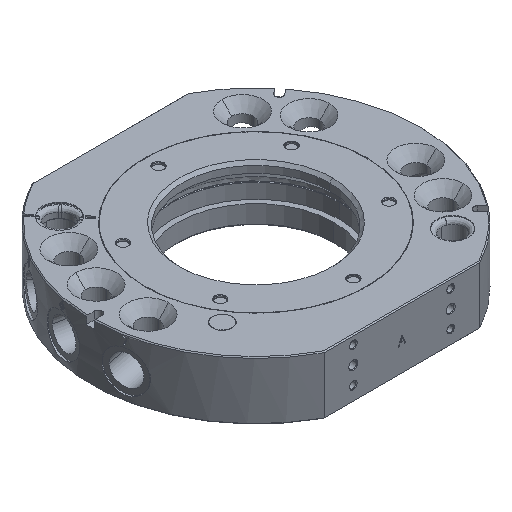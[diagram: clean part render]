
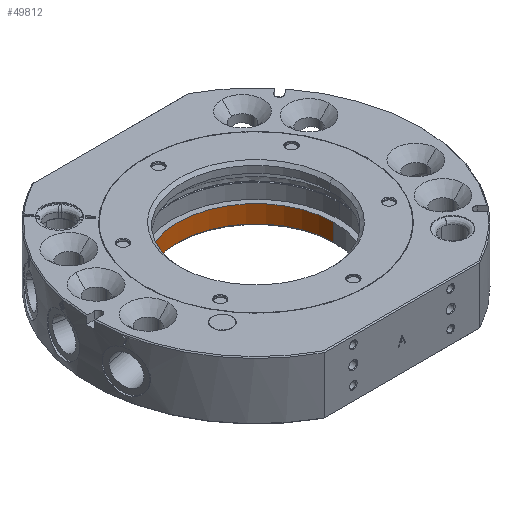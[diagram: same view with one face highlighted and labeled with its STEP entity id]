
A CAD part, isometric view. The second image highlights one B-rep face of the part: STEP entity #49812.
In plain terms, the highlighted cylindrical face has radius 40 mm (diameter 80 mm), a partial arc.
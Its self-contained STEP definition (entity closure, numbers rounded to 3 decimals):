
#338 = CARTESIAN_POINT ( 'NONE',  ( 0., 0., -29. ) ) ;
#1584 = DIRECTION ( 'NONE',  ( 0., 0., 1. ) ) ;
#2274 = EDGE_CURVE ( 'NONE', #42030, #29827, #4785, .T. ) ;
#2971 = AXIS2_PLACEMENT_3D ( 'NONE', #5830, #33196, #9980 ) ;
#3613 = CARTESIAN_POINT ( 'NONE',  ( -40., 0., -20. ) ) ;
#4339 = DIRECTION ( 'NONE',  ( -1., 0., 0. ) ) ;
#4474 = VECTOR ( 'NONE', #42323, 1000. ) ;
#4785 = LINE ( 'NONE', #42177, #4474 ) ;
#5262 = CIRCLE ( 'NONE', #33268, 40. ) ;
#5355 = AXIS2_PLACEMENT_3D ( 'NONE', #43283, #43111, #42149 ) ;
#5830 = CARTESIAN_POINT ( 'NONE',  ( 0., 0., -143.137 ) ) ;
#9980 = DIRECTION ( 'NONE',  ( 1., 0., 0. ) ) ;
#14024 = EDGE_CURVE ( 'NONE', #29827, #38901, #20541, .T. ) ;
#19796 = VECTOR ( 'NONE', #1584, 1000. ) ;
#20541 = CIRCLE ( 'NONE', #5355, 40. ) ;
#22950 = CARTESIAN_POINT ( 'NONE',  ( 40., 0., -29. ) ) ;
#24254 = VERTEX_POINT ( 'NONE', #22950 ) ;
#24863 = CYLINDRICAL_SURFACE ( 'NONE', #2971, 40. ) ;
#25510 = ORIENTED_EDGE ( 'NONE', *, *, #39989, .T. ) ;
#27523 = CARTESIAN_POINT ( 'NONE',  ( 40., 0., -20. ) ) ;
#28053 = DIRECTION ( 'NONE',  ( 0., 0., -1. ) ) ;
#29576 = ORIENTED_EDGE ( 'NONE', *, *, #14024, .F. ) ;
#29827 = VERTEX_POINT ( 'NONE', #3613 ) ;
#30185 = EDGE_CURVE ( 'NONE', #24254, #38901, #32303, .T. ) ;
#32303 = LINE ( 'NONE', #40442, #19796 ) ;
#33196 = DIRECTION ( 'NONE',  ( 0., 0., 1. ) ) ;
#33268 = AXIS2_PLACEMENT_3D ( 'NONE', #338, #28053, #4339 ) ;
#38901 = VERTEX_POINT ( 'NONE', #27523 ) ;
#39989 = EDGE_CURVE ( 'NONE', #42030, #24254, #5262, .T. ) ;
#40442 = CARTESIAN_POINT ( 'NONE',  ( 40., 0., -143.137 ) ) ;
#42030 = VERTEX_POINT ( 'NONE', #49603 ) ;
#42149 = DIRECTION ( 'NONE',  ( 1., 0., 0. ) ) ;
#42177 = CARTESIAN_POINT ( 'NONE',  ( -40., 0., -143.137 ) ) ;
#42323 = DIRECTION ( 'NONE',  ( 0., 0., 1. ) ) ;
#42720 = FACE_OUTER_BOUND ( 'NONE', #49612, .T. ) ;
#43111 = DIRECTION ( 'NONE',  ( 0., 0., -1. ) ) ;
#43283 = CARTESIAN_POINT ( 'NONE',  ( 0., 0., -20. ) ) ;
#47747 = ORIENTED_EDGE ( 'NONE', *, *, #2274, .F. ) ;
#49603 = CARTESIAN_POINT ( 'NONE',  ( -40., 0., -29. ) ) ;
#49612 = EDGE_LOOP ( 'NONE', ( #47747, #25510, #50230, #29576 ) ) ;
#49812 = ADVANCED_FACE ( 'NONE', ( #42720 ), #24863, .F. ) ;
#50230 = ORIENTED_EDGE ( 'NONE', *, *, #30185, .T. ) ;
